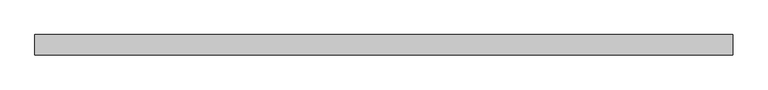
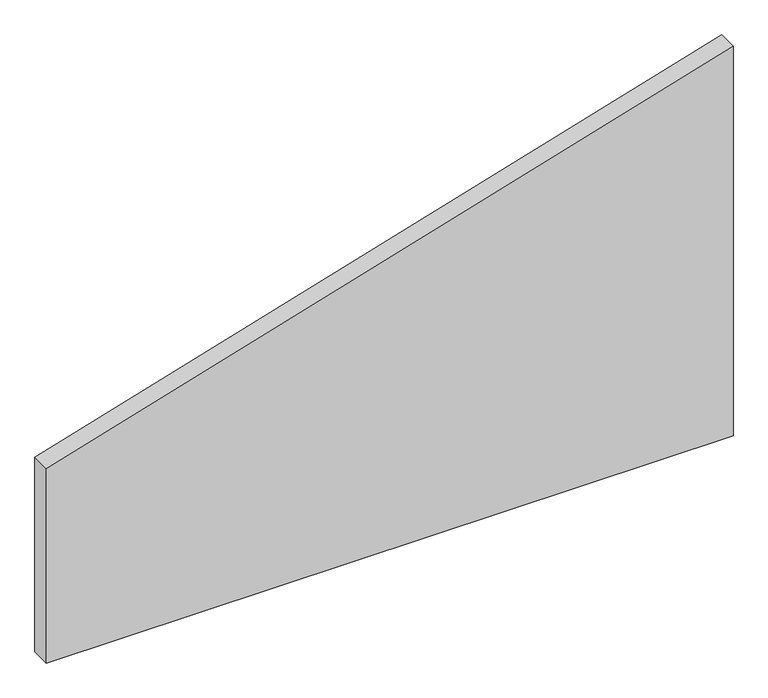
"""IFC4 building model written with IfcOpenShell, lengths in millimetres: plate geometry, Panneau système : Vitre 4cm."""

import ifcopenshell
import ifcopenshell.guid

model = None  # the IFC model being written
_history = None  # IfcOwnerHistory: only IFC2X3 demands one
_inside = {}  # id of a spatial element -> (the spatial element, [elements in it])
_under = {}  # id of a project, library or spatial element -> (it, [spatial elements below it])
_declared = {}  # id of a project -> (the project, [libraries it declares])
_typed = {}  # id of a type object -> (the type object, [elements of that type])
_made_of = {}  # id of a material, layer set ... -> (it, [elements and type objects made of it])


def new_model(schema):
    """Start an empty IFC model of exactly this schema.

    Asked for "IFC4X3", IfcOpenShell would pick the latest addendum, in which some entities
    have other attributes; the version numbers below select the first issue.
    IFC2X3 requires an IfcOwnerHistory on every rooted entity: one is made here for all.
    """
    global model, _history
    if schema == "IFC4X3":
        model = ifcopenshell.file(schema_version=(4, 3, 0, 0))
    else:
        model = ifcopenshell.file(schema=schema)
    _inside.clear()
    _under.clear()
    _declared.clear()
    _typed.clear()
    _made_of.clear()
    _history = None
    if model.schema == "IFC2X3":
        org = make("IfcOrganization", Name="unknown")
        user = make(
            "IfcPersonAndOrganization",
            ThePerson=make("IfcPerson", FamilyName="unknown"),
            TheOrganization=org,
        )
        app = make(
            "IfcApplication",
            ApplicationDeveloper=org,
            Version="unknown",
            ApplicationFullName="unknown",
            ApplicationIdentifier="unknown",
        )
        _history = make(
            "IfcOwnerHistory",
            OwningUser=user,
            OwningApplication=app,
            ChangeAction="ADDED",
            CreationDate=0,
        )
    return model


def make(cls, **values):
    """One entity of the class cls with the attributes given. An attribute that is None is left unset."""
    return model.create_entity(
        cls, **{name: value for name, value in values.items() if value is not None}
    )


def rooted(cls, **values):
    """An entity with a GlobalId (a new one), such as an element, a storey or a relation."""
    return make(cls, GlobalId=ifcopenshell.guid.new(), OwnerHistory=_history, **values)


def si_unit(unit_type, name, prefix=None):
    """IfcSIUnit, for example si_unit("LENGTHUNIT", "METRE", prefix="MILLI")."""
    return make("IfcSIUnit", UnitType=unit_type, Prefix=prefix, Name=name)


def assignment(units):
    """IfcUnitAssignment: the units of a project."""
    return None if units is None else make("IfcUnitAssignment", Units=units)


def point(xyz):
    """IfcCartesianPoint."""
    return None if xyz is None else make("IfcCartesianPoint", Coordinates=xyz)


def direction(xyz):
    """IfcDirection."""
    return None if xyz is None else make("IfcDirection", DirectionRatios=xyz)


def frame(location, z_axis=None, x_axis=None):
    """IfcAxis2Placement3D, a coordinate frame: its origin and axes. An axis left out is left unset."""
    return make(
        "IfcAxis2Placement3D",
        Location=point(location),
        Axis=direction(z_axis),
        RefDirection=direction(x_axis),
    )


def origin():
    """The frame at (0, 0, 0) with its axes left unset."""
    return frame((0.0, 0.0, 0.0))


def place(relative_to, where):
    """IfcLocalPlacement: puts the frame where relative to a parent placement (None: the world)."""
    return make(
        "IfcLocalPlacement", PlacementRelTo=relative_to, RelativePlacement=where
    )


def context(
    kind, dimensions, precision=None, world=None, true_north=None, identifier=None
):
    """IfcGeometricRepresentationContext, for example the 3D "Model" context."""
    return make(
        "IfcGeometricRepresentationContext",
        ContextIdentifier=identifier,
        ContextType=kind,
        CoordinateSpaceDimension=dimensions,
        Precision=precision,
        WorldCoordinateSystem=world,
        TrueNorth=true_north,
    )


def project(units=None, contexts=None):
    """IfcProject with its units and contexts."""
    return rooted(
        "IfcProject",
        Name="project",
        RepresentationContexts=contexts,
        UnitsInContext=assignment(units),
    )


def spatial(cls, under=None, at=None, **own):
    """A site, building, storey or space (cls), placed at a placement, below another one or the project."""
    s = rooted(cls, ObjectPlacement=at, **own)
    if under is not None:
        _under.setdefault(under.id(), (under, []))[1].append(s)
    return s


def polyline(points):
    """IfcPolyline through the points."""
    return make("IfcPolyline", Points=[point(p) for p in points])


def outline(outer, holes=None, kind="AREA"):
    """IfcArbitraryClosedProfileDef: a profile drawn as a closed curve; with holes, ...WithVoids."""
    if holes is None:
        return make("IfcArbitraryClosedProfileDef", ProfileType=kind, OuterCurve=outer)
    return make(
        "IfcArbitraryProfileDefWithVoids",
        ProfileType=kind,
        OuterCurve=outer,
        InnerCurves=holes,
    )


def extrude(swept, where, along, depth):
    """IfcExtrudedAreaSolid: the profile swept, set in the frame where, extruded along a direction by depth."""
    return make(
        "IfcExtrudedAreaSolid",
        SweptArea=swept,
        Position=where,
        ExtrudedDirection=direction(along),
        Depth=depth,
    )


def shape(context_of_items, identifier, shape_type, items):
    """IfcShapeRepresentation: the items that make up one representation, for example the "Body"."""
    return make(
        "IfcShapeRepresentation",
        ContextOfItems=context_of_items,
        RepresentationIdentifier=identifier,
        RepresentationType=shape_type,
        Items=items,
    )


def source(mapping_origin, context_of_items, identifier, shape_type, items):
    """IfcRepresentationMap: a shape defined once, which mapped items show again and again."""
    return make(
        "IfcRepresentationMap",
        MappingOrigin=mapping_origin,
        MappedRepresentation=shape(context_of_items, identifier, shape_type, items),
    )


def transform(
    local_origin,
    x_axis=None,
    y_axis=None,
    z_axis=None,
    scale=None,
    scale2=None,
    scale3=None,
    uniform=True,
):
    """IfcCartesianTransformationOperator3D, or its non-uniform kind. x_axis, y_axis, z_axis: its Axis1, 2, 3."""
    if uniform:
        return make(
            "IfcCartesianTransformationOperator3D",
            Axis1=direction(x_axis),
            Axis2=direction(y_axis),
            LocalOrigin=point(local_origin),
            Scale=scale,
            Axis3=direction(z_axis),
        )
    return make(
        "IfcCartesianTransformationOperator3DnonUniform",
        Axis1=direction(x_axis),
        Axis2=direction(y_axis),
        LocalOrigin=point(local_origin),
        Scale=scale,
        Axis3=direction(z_axis),
        Scale2=scale2,
        Scale3=scale3,
    )


def mapped(mapping_source, mapping_target):
    """IfcMappedItem: shows the shape of a source again, moved by a transform."""
    return make(
        "IfcMappedItem", MappingSource=mapping_source, MappingTarget=mapping_target
    )


def made_of(thing, what):
    """Note that an element or type object is made of a material, layer set ...; save() writes the relation."""
    if what is not None:
        _made_of.setdefault(what.id(), (what, []))[1].append(thing)
    return thing


def element(
    cls,
    number,
    at=None,
    inside=None,
    cuts=None,
    type_object=None,
    material=None,
    context=None,
    identifier="Body",
    shape_type=None,
    held_by="IfcProductDefinitionShape",
    body=None,
    shapes=None,
    **own,
):
    """One element of the class cls, such as IfcWall. Its Tag is "e" and its number.

    at: its placement. inside: the storey or other place that contains it. cuts: it is an
    opening in that element (IfcRelVoidsElement). A single representation is given by context,
    identifier, shape_type and body (its items); several are given by shapes. held_by: the class
    of the entity that holds the representations. save() writes the other relations.
    """
    e = rooted(cls, Tag="e%d" % number, ObjectPlacement=at, **own)
    if body is not None:
        shapes = [shape(context, identifier, shape_type, body)]
    if shapes is not None:
        e.Representation = make(held_by, Representations=shapes)
    if inside is not None:
        _inside.setdefault(inside.id(), (inside, []))[1].append(e)
    if cuts is not None:
        rooted(
            "IfcRelVoidsElement", RelatingBuildingElement=cuts, RelatedOpeningElement=e
        )
    if type_object is not None:
        _typed.setdefault(type_object.id(), (type_object, []))[1].append(e)
    return made_of(e, material)


def aggregate(whole, parts):
    """IfcRelAggregates: a whole, such as a stair, and the parts it consists of."""
    return rooted("IfcRelAggregates", RelatingObject=whole, RelatedObjects=parts)


def save(model, path):
    """Write the relations noted so far, then the file.

    IfcRelAggregates (storeys below a building ...), IfcRelContainedInSpatialStructure (elements
    in a storey), IfcRelDefinesByType, IfcRelAssociatesMaterial and IfcRelDeclares: one each for
    every whole, place, type object, material and project.
    """
    for whole, parts in _under.values():
        aggregate(whole, parts)
    for where, things in _inside.values():
        rooted(
            "IfcRelContainedInSpatialStructure",
            RelatedElements=things,
            RelatingStructure=where,
        )
    for kind, things in _typed.values():
        rooted("IfcRelDefinesByType", RelatedObjects=things, RelatingType=kind)
    for what, things in _made_of.values():
        rooted("IfcRelAssociatesMaterial", RelatedObjects=things, RelatingMaterial=what)
    for by, libraries in _declared.values():
        rooted("IfcRelDeclares", RelatingContext=by, RelatedDefinitions=libraries)
    model.write(path)


def plate_6ec47684(model_context):
    return source(origin(), model_context, "Body", "SweptSolid", [
        extrude(outline(polyline([(0.0, -685.375), (0.0, 685.375), (821.689843, 685.375), (410.464843, -685.375), (0.0, -685.375)])), frame((0.0, -20.0, 0.0), z_axis=(0.0, 1.0, 0.0), x_axis=(0.0, 0.0, 1.0)), (0.0, 0.0, 1.0), 40.0),
    ])


if __name__ == "__main__":
    model = new_model("IFC4")
    model_context = context("Model", 3, world=origin())
    ifc_project = project(units=[si_unit("LENGTHUNIT", "METRE", prefix="MILLI")], contexts=[model_context])
    site = spatial("IfcSite", under=ifc_project)
    building = spatial("IfcBuilding", under=site)
    placement = place(None, origin())
    plate_shape = plate_6ec47684(model_context)
    element("IfcPlate", 1, ObjectType="Panneau système : Vitre 4cm", at=placement, inside=building, context=model_context, shape_type="MappedRepresentation", body=[
        mapped(plate_shape, transform((0.0, 0.0, 0.0), x_axis=(1.0, 0.0, 0.0), y_axis=(0.0, 1.0, 0.0), z_axis=(0.0, 0.0, 1.0))),
    ])
    save(model, "model.ifc")
